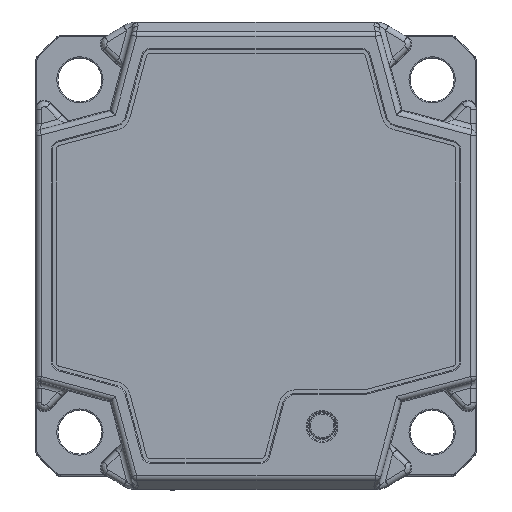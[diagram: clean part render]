
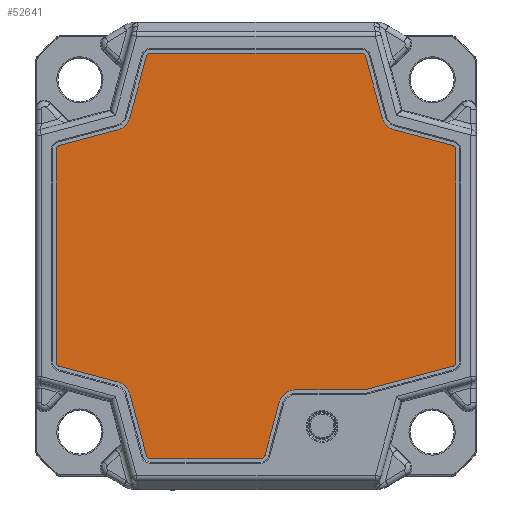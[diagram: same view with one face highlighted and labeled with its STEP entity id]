
A CAD part, top view. The second image highlights one B-rep face of the part: STEP entity #52641.
In plain terms, the highlighted planar face has unit normal (0, 0, 1).
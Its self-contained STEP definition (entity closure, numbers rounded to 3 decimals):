
#3888=PLANE('',#58666);
#7049=FACE_OUTER_BOUND('',#10448,.T.);
#10448=EDGE_LOOP('',(#48008,#48009,#48010,#48011,#48012,#48013,#48014,#48015,
#48016,#48017,#48018,#48019,#48020,#48021,#48022,#48023,#48024,#48025,#48026,
#48027,#48028,#48029,#48030,#48031,#48032,#48033));
#14142=LINE('',#99949,#17879);
#14146=LINE('',#99961,#17883);
#14150=LINE('',#99973,#17887);
#14154=LINE('',#99985,#17891);
#14158=LINE('',#99997,#17895);
#14162=LINE('',#100009,#17899);
#14166=LINE('',#100021,#17903);
#14170=LINE('',#100033,#17907);
#14174=LINE('',#100045,#17911);
#14178=LINE('',#100057,#17915);
#14182=LINE('',#100069,#17919);
#14186=LINE('',#100081,#17923);
#14190=LINE('',#100091,#17927);
#17879=VECTOR('',#74043,10.);
#17883=VECTOR('',#74055,10.);
#17887=VECTOR('',#74067,10.);
#17891=VECTOR('',#74079,10.);
#17895=VECTOR('',#74091,10.);
#17899=VECTOR('',#74103,10.);
#17903=VECTOR('',#74115,10.);
#17907=VECTOR('',#74127,10.);
#17911=VECTOR('',#74139,10.);
#17915=VECTOR('',#74151,10.);
#17919=VECTOR('',#74163,10.);
#17923=VECTOR('',#74175,10.);
#17927=VECTOR('',#74187,10.);
#20706=CIRCLE('',#58616,1.58);
#20708=CIRCLE('',#58620,0.42);
#20710=CIRCLE('',#58624,0.42);
#20712=CIRCLE('',#58628,1.58);
#20714=CIRCLE('',#58632,0.42);
#20716=CIRCLE('',#58636,0.42);
#20718=CIRCLE('',#58640,1.58);
#20720=CIRCLE('',#58644,0.42);
#20722=CIRCLE('',#58648,0.42);
#20724=CIRCLE('',#58652,1.58);
#20726=CIRCLE('',#58656,0.42);
#20728=CIRCLE('',#58660,0.42);
#20730=CIRCLE('',#58664,0.42);
#25196=VERTEX_POINT('',#99940);
#25197=VERTEX_POINT('',#99942);
#25199=VERTEX_POINT('',#99948);
#25201=VERTEX_POINT('',#99954);
#25203=VERTEX_POINT('',#99960);
#25205=VERTEX_POINT('',#99966);
#25207=VERTEX_POINT('',#99972);
#25209=VERTEX_POINT('',#99978);
#25211=VERTEX_POINT('',#99984);
#25213=VERTEX_POINT('',#99990);
#25215=VERTEX_POINT('',#99996);
#25217=VERTEX_POINT('',#100002);
#25219=VERTEX_POINT('',#100008);
#25221=VERTEX_POINT('',#100014);
#25223=VERTEX_POINT('',#100020);
#25225=VERTEX_POINT('',#100026);
#25227=VERTEX_POINT('',#100032);
#25229=VERTEX_POINT('',#100038);
#25231=VERTEX_POINT('',#100044);
#25233=VERTEX_POINT('',#100050);
#25235=VERTEX_POINT('',#100056);
#25237=VERTEX_POINT('',#100062);
#25239=VERTEX_POINT('',#100068);
#25241=VERTEX_POINT('',#100074);
#25243=VERTEX_POINT('',#100080);
#25245=VERTEX_POINT('',#100086);
#32788=EDGE_CURVE('',#25197,#25196,#20706,.T.);
#32791=EDGE_CURVE('',#25199,#25197,#14142,.T.);
#32794=EDGE_CURVE('',#25201,#25199,#20708,.T.);
#32797=EDGE_CURVE('',#25203,#25201,#14146,.T.);
#32800=EDGE_CURVE('',#25205,#25203,#20710,.T.);
#32803=EDGE_CURVE('',#25207,#25205,#14150,.T.);
#32806=EDGE_CURVE('',#25209,#25207,#20712,.T.);
#32809=EDGE_CURVE('',#25211,#25209,#14154,.T.);
#32812=EDGE_CURVE('',#25213,#25211,#20714,.T.);
#32815=EDGE_CURVE('',#25215,#25213,#14158,.T.);
#32818=EDGE_CURVE('',#25217,#25215,#20716,.T.);
#32821=EDGE_CURVE('',#25219,#25217,#14162,.T.);
#32824=EDGE_CURVE('',#25221,#25219,#20718,.T.);
#32827=EDGE_CURVE('',#25223,#25221,#14166,.T.);
#32830=EDGE_CURVE('',#25225,#25223,#20720,.T.);
#32833=EDGE_CURVE('',#25227,#25225,#14170,.T.);
#32836=EDGE_CURVE('',#25229,#25227,#20722,.T.);
#32839=EDGE_CURVE('',#25231,#25229,#14174,.T.);
#32842=EDGE_CURVE('',#25233,#25231,#20724,.T.);
#32845=EDGE_CURVE('',#25235,#25233,#14178,.T.);
#32848=EDGE_CURVE('',#25237,#25235,#20726,.T.);
#32851=EDGE_CURVE('',#25239,#25237,#14182,.T.);
#32854=EDGE_CURVE('',#25241,#25239,#20728,.T.);
#32857=EDGE_CURVE('',#25243,#25241,#14186,.T.);
#32860=EDGE_CURVE('',#25245,#25243,#20730,.T.);
#32863=EDGE_CURVE('',#25196,#25245,#14190,.T.);
#48008=ORIENTED_EDGE('',*,*,#32863,.T.);
#48009=ORIENTED_EDGE('',*,*,#32860,.T.);
#48010=ORIENTED_EDGE('',*,*,#32857,.T.);
#48011=ORIENTED_EDGE('',*,*,#32854,.T.);
#48012=ORIENTED_EDGE('',*,*,#32851,.T.);
#48013=ORIENTED_EDGE('',*,*,#32848,.T.);
#48014=ORIENTED_EDGE('',*,*,#32845,.T.);
#48015=ORIENTED_EDGE('',*,*,#32842,.T.);
#48016=ORIENTED_EDGE('',*,*,#32839,.T.);
#48017=ORIENTED_EDGE('',*,*,#32836,.T.);
#48018=ORIENTED_EDGE('',*,*,#32833,.T.);
#48019=ORIENTED_EDGE('',*,*,#32830,.T.);
#48020=ORIENTED_EDGE('',*,*,#32827,.T.);
#48021=ORIENTED_EDGE('',*,*,#32824,.T.);
#48022=ORIENTED_EDGE('',*,*,#32821,.T.);
#48023=ORIENTED_EDGE('',*,*,#32818,.T.);
#48024=ORIENTED_EDGE('',*,*,#32815,.T.);
#48025=ORIENTED_EDGE('',*,*,#32812,.T.);
#48026=ORIENTED_EDGE('',*,*,#32809,.T.);
#48027=ORIENTED_EDGE('',*,*,#32806,.T.);
#48028=ORIENTED_EDGE('',*,*,#32803,.T.);
#48029=ORIENTED_EDGE('',*,*,#32800,.T.);
#48030=ORIENTED_EDGE('',*,*,#32797,.T.);
#48031=ORIENTED_EDGE('',*,*,#32794,.T.);
#48032=ORIENTED_EDGE('',*,*,#32791,.T.);
#48033=ORIENTED_EDGE('',*,*,#32788,.T.);
#52641=ADVANCED_FACE('',(#7049),#3888,.T.);
#58616=AXIS2_PLACEMENT_3D('',#99943,#74037,#74038);
#58620=AXIS2_PLACEMENT_3D('',#99955,#74049,#74050);
#58624=AXIS2_PLACEMENT_3D('',#99967,#74061,#74062);
#58628=AXIS2_PLACEMENT_3D('',#99979,#74073,#74074);
#58632=AXIS2_PLACEMENT_3D('',#99991,#74085,#74086);
#58636=AXIS2_PLACEMENT_3D('',#100003,#74097,#74098);
#58640=AXIS2_PLACEMENT_3D('',#100015,#74109,#74110);
#58644=AXIS2_PLACEMENT_3D('',#100027,#74121,#74122);
#58648=AXIS2_PLACEMENT_3D('',#100039,#74133,#74134);
#58652=AXIS2_PLACEMENT_3D('',#100051,#74145,#74146);
#58656=AXIS2_PLACEMENT_3D('',#100063,#74157,#74158);
#58660=AXIS2_PLACEMENT_3D('',#100075,#74169,#74170);
#58664=AXIS2_PLACEMENT_3D('',#100087,#74181,#74182);
#58666=AXIS2_PLACEMENT_3D('',#100092,#74188,#74189);
#74037=DIRECTION('center_axis',(0.,0.,-1.));
#74038=DIRECTION('ref_axis',(0.,1.,0.));
#74043=DIRECTION('',(0.259,0.966,0.));
#74049=DIRECTION('center_axis',(0.,0.,1.));
#74050=DIRECTION('ref_axis',(0.,-1.,0.));
#74055=DIRECTION('',(1.,0.,0.));
#74061=DIRECTION('center_axis',(0.,0.,1.));
#74062=DIRECTION('ref_axis',(-0.966,-0.259,0.));
#74067=DIRECTION('',(0.259,-0.966,0.));
#74073=DIRECTION('center_axis',(0.,0.,-1.));
#74074=DIRECTION('ref_axis',(0.966,0.259,0.));
#74079=DIRECTION('',(0.966,-0.259,0.));
#74085=DIRECTION('center_axis',(0.,0.,1.));
#74086=DIRECTION('ref_axis',(-1.,0.,0.));
#74091=DIRECTION('',(0.,-1.,0.));
#74097=DIRECTION('center_axis',(0.,0.,1.));
#74098=DIRECTION('ref_axis',(-0.259,0.966,0.));
#74103=DIRECTION('',(-0.966,-0.259,0.));
#74109=DIRECTION('center_axis',(0.,0.,-1.));
#74110=DIRECTION('ref_axis',(0.259,-0.966,0.));
#74115=DIRECTION('',(-0.259,-0.966,0.));
#74121=DIRECTION('center_axis',(0.,0.,1.));
#74122=DIRECTION('ref_axis',(0.,1.,0.));
#74127=DIRECTION('',(-1.,0.,0.));
#74133=DIRECTION('center_axis',(0.,0.,1.));
#74134=DIRECTION('ref_axis',(0.966,0.259,0.));
#74139=DIRECTION('',(-0.259,0.966,0.));
#74145=DIRECTION('center_axis',(0.,0.,-1.));
#74146=DIRECTION('ref_axis',(-0.966,-0.259,0.));
#74151=DIRECTION('',(-0.966,0.259,0.));
#74157=DIRECTION('center_axis',(0.,0.,1.));
#74158=DIRECTION('ref_axis',(1.,0.,0.));
#74163=DIRECTION('',(0.,1.,0.));
#74169=DIRECTION('center_axis',(0.,0.,1.));
#74170=DIRECTION('ref_axis',(0.259,-0.966,0.));
#74175=DIRECTION('',(0.966,0.259,0.));
#74181=DIRECTION('center_axis',(0.,0.,1.));
#74182=DIRECTION('ref_axis',(0.,-1.,0.));
#74187=DIRECTION('',(1.,0.,0.));
#74188=DIRECTION('center_axis',(0.,0.,1.));
#74189=DIRECTION('ref_axis',(1.,0.,0.));
#99940=CARTESIAN_POINT('',(3.622,-12.17,0.15));
#99942=CARTESIAN_POINT('',(2.096,-13.341,0.15));
#99943=CARTESIAN_POINT('Origin',(3.622,-13.75,0.15));
#99948=CARTESIAN_POINT('',(0.818,-18.109,0.15));
#99949=CARTESIAN_POINT('',(0.818,-18.109,0.15));
#99954=CARTESIAN_POINT('',(0.413,-18.42,0.15));
#99955=CARTESIAN_POINT('Origin',(0.413,-18.,0.15));
#99960=CARTESIAN_POINT('',(-9.563,-18.42,0.15));
#99961=CARTESIAN_POINT('',(-9.563,-18.42,0.15));
#99966=CARTESIAN_POINT('',(-9.969,-18.109,0.15));
#99967=CARTESIAN_POINT('Origin',(-9.563,-18.,0.15));
#99972=CARTESIAN_POINT('',(-11.453,-12.57,0.15));
#99973=CARTESIAN_POINT('',(-11.453,-12.57,0.15));
#99978=CARTESIAN_POINT('',(-12.57,-11.453,0.15));
#99979=CARTESIAN_POINT('Origin',(-12.979,-12.979,0.15));
#99984=CARTESIAN_POINT('',(-17.859,-10.036,0.15));
#99985=CARTESIAN_POINT('',(-17.859,-10.036,0.15));
#99990=CARTESIAN_POINT('',(-18.17,-9.63,0.15));
#99991=CARTESIAN_POINT('Origin',(-17.75,-9.63,0.15));
#99996=CARTESIAN_POINT('',(-18.17,9.63,0.15));
#99997=CARTESIAN_POINT('',(-18.17,9.63,0.15));
#100002=CARTESIAN_POINT('',(-17.859,10.036,0.15));
#100003=CARTESIAN_POINT('Origin',(-17.75,9.63,0.15));
#100008=CARTESIAN_POINT('',(-12.57,11.453,0.15));
#100009=CARTESIAN_POINT('',(-12.57,11.453,0.15));
#100014=CARTESIAN_POINT('',(-11.453,12.57,0.15));
#100015=CARTESIAN_POINT('Origin',(-12.979,12.979,0.15));
#100020=CARTESIAN_POINT('',(-9.969,18.109,0.15));
#100021=CARTESIAN_POINT('',(-9.969,18.109,0.15));
#100026=CARTESIAN_POINT('',(-9.563,18.42,0.15));
#100027=CARTESIAN_POINT('Origin',(-9.563,18.,0.15));
#100032=CARTESIAN_POINT('',(9.563,18.42,0.15));
#100033=CARTESIAN_POINT('',(9.563,18.42,0.15));
#100038=CARTESIAN_POINT('',(9.969,18.109,0.15));
#100039=CARTESIAN_POINT('Origin',(9.563,18.,0.15));
#100044=CARTESIAN_POINT('',(11.453,12.57,0.15));
#100045=CARTESIAN_POINT('',(11.453,12.57,0.15));
#100050=CARTESIAN_POINT('',(12.57,11.453,0.15));
#100051=CARTESIAN_POINT('Origin',(12.979,12.979,0.15));
#100056=CARTESIAN_POINT('',(17.859,10.036,0.15));
#100057=CARTESIAN_POINT('',(17.859,10.036,0.15));
#100062=CARTESIAN_POINT('',(18.17,9.63,0.15));
#100063=CARTESIAN_POINT('Origin',(17.75,9.63,0.15));
#100068=CARTESIAN_POINT('',(18.17,-9.63,0.15));
#100069=CARTESIAN_POINT('',(18.17,-9.63,0.15));
#100074=CARTESIAN_POINT('',(17.859,-10.036,0.15));
#100075=CARTESIAN_POINT('Origin',(17.75,-9.63,0.15));
#100080=CARTESIAN_POINT('',(9.947,-12.156,0.15));
#100081=CARTESIAN_POINT('',(9.947,-12.156,0.15));
#100086=CARTESIAN_POINT('',(9.838,-12.17,0.15));
#100087=CARTESIAN_POINT('Origin',(9.838,-11.75,0.15));
#100091=CARTESIAN_POINT('',(3.622,-12.17,0.15));
#100092=CARTESIAN_POINT('Origin',(0.,0.,0.15));
